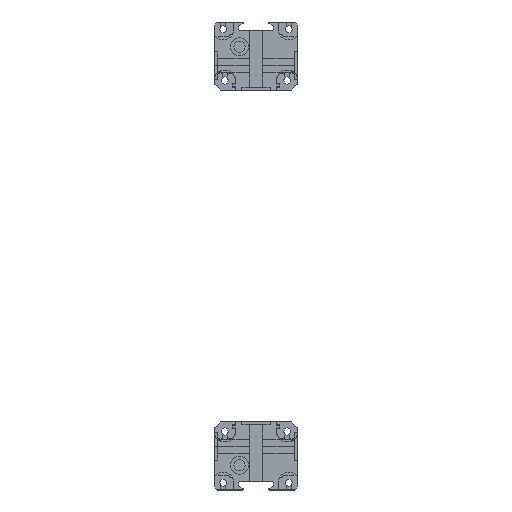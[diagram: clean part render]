
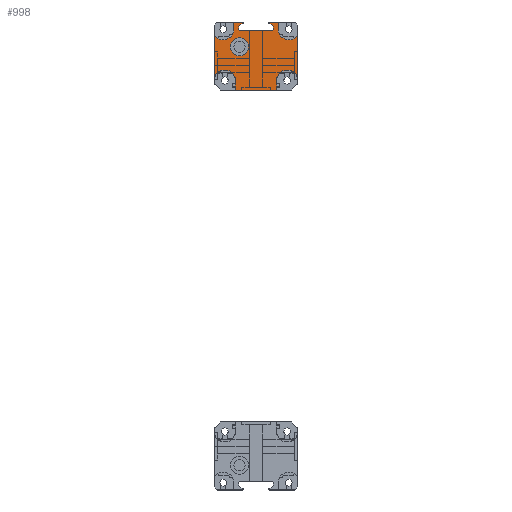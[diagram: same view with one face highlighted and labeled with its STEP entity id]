
A CAD part, front view. The second image highlights one B-rep face of the part: STEP entity #998.
In plain terms, the highlighted planar face has unit normal (0, -1, 0) as drawn and (0, 0, -1) by its records, which use the part's own axes.
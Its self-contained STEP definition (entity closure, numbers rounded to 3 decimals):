
#661=FACE_BOUND('',#1754,.T.);
#662=FACE_BOUND('',#1755,.T.);
#768=PLANE('',#7134);
#998=ADVANCED_FACE('',(#661,#662),#768,.T.);
#1754=EDGE_LOOP('',(#3763,#3764));
#1755=EDGE_LOOP('',(#3765,#3766,#3767,#3768,#3769,#3770,#3771,#3772,#3773,
#3774,#3775,#3776,#3777,#3778,#3779,#3780,#3781,#3782,#3783,#3784,#3785,
#3786,#3787,#3788,#3789));
#2194=LINE('',#10043,#2801);
#2195=LINE('',#10046,#2802);
#2196=LINE('',#10048,#2803);
#2197=LINE('',#10052,#2804);
#2198=LINE('',#10056,#2805);
#2199=LINE('',#10058,#2806);
#2200=LINE('',#10062,#2807);
#2201=LINE('',#10066,#2808);
#2202=LINE('',#10070,#2809);
#2203=LINE('',#10074,#2810);
#2204=LINE('',#10078,#2811);
#2205=LINE('',#10081,#2812);
#2206=LINE('',#10083,#2813);
#2207=LINE('',#10087,#2814);
#2801=VECTOR('',#8154,1.);
#2802=VECTOR('',#8155,1.);
#2803=VECTOR('',#8156,1.);
#2804=VECTOR('',#8159,1.);
#2805=VECTOR('',#8162,1.);
#2806=VECTOR('',#8163,1.);
#2807=VECTOR('',#8166,1.);
#2808=VECTOR('',#8169,1.);
#2809=VECTOR('',#8172,1.);
#2810=VECTOR('',#8175,1.);
#2811=VECTOR('',#8178,1.);
#2812=VECTOR('',#8181,1.);
#2813=VECTOR('',#8182,1.);
#2814=VECTOR('',#8185,1.);
#3763=ORIENTED_EDGE('',*,*,#5895,.T.);
#3764=ORIENTED_EDGE('',*,*,#5980,.T.);
#3765=ORIENTED_EDGE('',*,*,#5981,.T.);
#3766=ORIENTED_EDGE('',*,*,#5982,.F.);
#3767=ORIENTED_EDGE('',*,*,#5983,.F.);
#3768=ORIENTED_EDGE('',*,*,#5984,.T.);
#3769=ORIENTED_EDGE('',*,*,#5985,.F.);
#3770=ORIENTED_EDGE('',*,*,#5986,.T.);
#3771=ORIENTED_EDGE('',*,*,#5987,.T.);
#3772=ORIENTED_EDGE('',*,*,#5988,.F.);
#3773=ORIENTED_EDGE('',*,*,#5989,.F.);
#3774=ORIENTED_EDGE('',*,*,#5990,.F.);
#3775=ORIENTED_EDGE('',*,*,#5991,.F.);
#3776=ORIENTED_EDGE('',*,*,#5992,.F.);
#3777=ORIENTED_EDGE('',*,*,#5993,.F.);
#3778=ORIENTED_EDGE('',*,*,#5994,.F.);
#3779=ORIENTED_EDGE('',*,*,#5995,.F.);
#3780=ORIENTED_EDGE('',*,*,#5996,.F.);
#3781=ORIENTED_EDGE('',*,*,#5997,.F.);
#3782=ORIENTED_EDGE('',*,*,#5998,.F.);
#3783=ORIENTED_EDGE('',*,*,#5999,.F.);
#3784=ORIENTED_EDGE('',*,*,#5912,.F.);
#3785=ORIENTED_EDGE('',*,*,#6000,.F.);
#3786=ORIENTED_EDGE('',*,*,#6001,.F.);
#3787=ORIENTED_EDGE('',*,*,#6002,.T.);
#3788=ORIENTED_EDGE('',*,*,#6003,.F.);
#3789=ORIENTED_EDGE('',*,*,#6004,.T.);
#5214=VERTEX_POINT('',#9862);
#5215=VERTEX_POINT('',#9864);
#5231=VERTEX_POINT('',#9904);
#5232=VERTEX_POINT('',#9905);
#5281=VERTEX_POINT('',#10044);
#5282=VERTEX_POINT('',#10045);
#5283=VERTEX_POINT('',#10047);
#5284=VERTEX_POINT('',#10049);
#5285=VERTEX_POINT('',#10051);
#5286=VERTEX_POINT('',#10053);
#5287=VERTEX_POINT('',#10055);
#5288=VERTEX_POINT('',#10057);
#5289=VERTEX_POINT('',#10059);
#5290=VERTEX_POINT('',#10061);
#5291=VERTEX_POINT('',#10063);
#5292=VERTEX_POINT('',#10065);
#5293=VERTEX_POINT('',#10067);
#5294=VERTEX_POINT('',#10069);
#5295=VERTEX_POINT('',#10071);
#5296=VERTEX_POINT('',#10073);
#5297=VERTEX_POINT('',#10075);
#5298=VERTEX_POINT('',#10077);
#5299=VERTEX_POINT('',#10079);
#5300=VERTEX_POINT('',#10082);
#5301=VERTEX_POINT('',#10084);
#5302=VERTEX_POINT('',#10086);
#5303=VERTEX_POINT('',#10088);
#5895=EDGE_CURVE('',#5215,#5214,#6684,.T.);
#5912=EDGE_CURVE('',#5231,#5232,#6692,.T.);
#5980=EDGE_CURVE('',#5214,#5215,#6716,.T.);
#5981=EDGE_CURVE('',#5281,#5282,#2194,.T.);
#5982=EDGE_CURVE('',#5283,#5282,#2195,.T.);
#5983=EDGE_CURVE('',#5284,#5283,#2196,.T.);
#5984=EDGE_CURVE('',#5284,#5285,#6717,.T.);
#5985=EDGE_CURVE('',#5286,#5285,#2197,.T.);
#5986=EDGE_CURVE('',#5286,#5287,#6718,.T.);
#5987=EDGE_CURVE('',#5287,#5288,#2198,.T.);
#5988=EDGE_CURVE('',#5289,#5288,#2199,.T.);
#5989=EDGE_CURVE('',#5290,#5289,#6719,.T.);
#5990=EDGE_CURVE('',#5291,#5290,#2200,.T.);
#5991=EDGE_CURVE('',#5292,#5291,#6720,.T.);
#5992=EDGE_CURVE('',#5293,#5292,#2201,.T.);
#5993=EDGE_CURVE('',#5294,#5293,#6721,.T.);
#5994=EDGE_CURVE('',#5295,#5294,#2202,.T.);
#5995=EDGE_CURVE('',#5296,#5295,#6722,.T.);
#5996=EDGE_CURVE('',#5297,#5296,#2203,.T.);
#5997=EDGE_CURVE('',#5298,#5297,#6723,.T.);
#5998=EDGE_CURVE('',#5299,#5298,#2204,.T.);
#5999=EDGE_CURVE('',#5232,#5299,#6724,.T.);
#6000=EDGE_CURVE('',#5300,#5231,#2205,.T.);
#6001=EDGE_CURVE('',#5301,#5300,#2206,.T.);
#6002=EDGE_CURVE('',#5301,#5302,#6725,.T.);
#6003=EDGE_CURVE('',#5303,#5302,#2207,.T.);
#6004=EDGE_CURVE('',#5303,#5281,#6726,.T.);
#6684=CIRCLE('',#7066,2.75);
#6692=CIRCLE('',#7078,0.2);
#6716=CIRCLE('',#7123,2.75);
#6717=CIRCLE('',#7124,3.2);
#6718=CIRCLE('',#7125,3.2);
#6719=CIRCLE('',#7126,0.2);
#6720=CIRCLE('',#7127,0.5);
#6721=CIRCLE('',#7128,0.5);
#6722=CIRCLE('',#7129,0.5);
#6723=CIRCLE('',#7130,0.5);
#6724=CIRCLE('',#7131,0.2);
#6725=CIRCLE('',#7132,3.2);
#6726=CIRCLE('',#7133,3.2);
#7066=AXIS2_PLACEMENT_3D('',#9863,#7986,#7987);
#7078=AXIS2_PLACEMENT_3D('',#9903,#8018,#8019);
#7123=AXIS2_PLACEMENT_3D('',#10042,#8152,#8153);
#7124=AXIS2_PLACEMENT_3D('',#10050,#8157,#8158);
#7125=AXIS2_PLACEMENT_3D('',#10054,#8160,#8161);
#7126=AXIS2_PLACEMENT_3D('',#10060,#8164,#8165);
#7127=AXIS2_PLACEMENT_3D('',#10064,#8167,#8168);
#7128=AXIS2_PLACEMENT_3D('',#10068,#8170,#8171);
#7129=AXIS2_PLACEMENT_3D('',#10072,#8173,#8174);
#7130=AXIS2_PLACEMENT_3D('',#10076,#8176,#8177);
#7131=AXIS2_PLACEMENT_3D('',#10080,#8179,#8180);
#7132=AXIS2_PLACEMENT_3D('',#10085,#8183,#8184);
#7133=AXIS2_PLACEMENT_3D('',#10089,#8186,#8187);
#7134=AXIS2_PLACEMENT_3D('',#10090,#8188,#8189);
#7986=DIRECTION('',(0.,0.,1.));
#7987=DIRECTION('',(1.,0.,0.));
#8018=DIRECTION('',(0.,0.,1.));
#8019=DIRECTION('',(1.,0.,0.));
#8152=DIRECTION('',(0.,0.,1.));
#8153=DIRECTION('',(1.,0.,0.));
#8154=DIRECTION('',(0.,-1.,0.));
#8155=DIRECTION('',(1.,0.,0.));
#8156=DIRECTION('',(0.,-1.,0.));
#8157=DIRECTION('',(0.,0.,1.));
#8158=DIRECTION('',(1.,0.,0.));
#8159=DIRECTION('',(0.,-1.,0.));
#8160=DIRECTION('',(0.,0.,1.));
#8161=DIRECTION('',(1.,0.,0.));
#8162=DIRECTION('',(0.,1.,0.));
#8163=DIRECTION('',(-1.,0.,0.));
#8164=DIRECTION('',(0.,0.,1.));
#8165=DIRECTION('',(1.,0.,0.));
#8166=DIRECTION('',(0.883,0.469,0.));
#8167=DIRECTION('',(0.,0.,-1.));
#8168=DIRECTION('',(1.,0.,0.));
#8169=DIRECTION('',(0.,1.,0.));
#8170=DIRECTION('',(0.,0.,-1.));
#8171=DIRECTION('',(1.,0.,0.));
#8172=DIRECTION('',(-1.,0.,0.));
#8173=DIRECTION('',(0.,0.,-1.));
#8174=DIRECTION('',(1.,0.,0.));
#8175=DIRECTION('',(0.,-1.,0.));
#8176=DIRECTION('',(0.,0.,-1.));
#8177=DIRECTION('',(1.,0.,0.));
#8178=DIRECTION('',(0.883,-0.469,0.));
#8179=DIRECTION('',(0.,0.,1.));
#8180=DIRECTION('',(1.,0.,0.));
#8181=DIRECTION('',(-1.,0.,0.));
#8182=DIRECTION('',(0.,1.,0.));
#8183=DIRECTION('',(0.,0.,1.));
#8184=DIRECTION('',(1.,0.,0.));
#8185=DIRECTION('',(0.,1.,0.));
#8186=DIRECTION('',(0.,0.,1.));
#8187=DIRECTION('',(1.,0.,0.));
#8188=DIRECTION('',(0.,0.,-1.));
#8189=DIRECTION('',(-1.,0.,0.));
#9862=CARTESIAN_POINT('',(7.75,2.7,-11.));
#9863=CARTESIAN_POINT('',(5.,2.7,-11.));
#9864=CARTESIAN_POINT('',(2.25,2.7,-11.));
#9903=CARTESIAN_POINT('',(3.933,10.,-11.));
#9904=CARTESIAN_POINT('',(3.931,10.2,-11.));
#9905=CARTESIAN_POINT('',(3.733,10.,-11.));
#10042=CARTESIAN_POINT('',(5.,2.7,-11.));
#10043=CARTESIAN_POINT('',(6.2,0.,-11.));
#10044=CARTESIAN_POINT('',(6.2,-7.5,-11.));
#10045=CARTESIAN_POINT('',(6.2,-10.5,-11.));
#10046=CARTESIAN_POINT('',(-10.293,-10.5,-11.));
#10047=CARTESIAN_POINT('',(-6.2,-10.5,-11.));
#10048=CARTESIAN_POINT('',(-6.2,0.,-11.));
#10049=CARTESIAN_POINT('',(-6.2,-7.5,-11.));
#10050=CARTESIAN_POINT('',(-9.4,-7.5,-11.));
#10051=CARTESIAN_POINT('',(-12.5,-6.706,-11.));
#10052=CARTESIAN_POINT('',(-12.5,9.2,-11.));
#10053=CARTESIAN_POINT('',(-12.5,6.135,-11.));
#10054=CARTESIAN_POINT('',(-9.9,8.,-11.));
#10055=CARTESIAN_POINT('',(-6.7,8.,-11.));
#10056=CARTESIAN_POINT('',(-6.7,0.,-11.));
#10057=CARTESIAN_POINT('',(-6.7,10.2,-11.));
#10058=CARTESIAN_POINT('',(-3.933,10.2,-11.));
#10059=CARTESIAN_POINT('',(-3.933,10.2,-11.));
#10060=CARTESIAN_POINT('',(-3.933,10.,-11.));
#10061=CARTESIAN_POINT('',(-3.838,9.824,-11.));
#10062=CARTESIAN_POINT('',(-4.985,9.215,-11.));
#10063=CARTESIAN_POINT('',(-4.985,9.215,-11.));
#10064=CARTESIAN_POINT('',(-4.75,8.773,-11.));
#10065=CARTESIAN_POINT('',(-5.25,8.773,-11.));
#10066=CARTESIAN_POINT('',(-5.25,8.2,-11.));
#10067=CARTESIAN_POINT('',(-5.25,8.2,-11.));
#10068=CARTESIAN_POINT('',(-4.75,8.2,-11.));
#10069=CARTESIAN_POINT('',(-4.75,7.7,-11.));
#10070=CARTESIAN_POINT('',(4.75,7.7,-11.));
#10071=CARTESIAN_POINT('',(4.75,7.7,-11.));
#10072=CARTESIAN_POINT('',(4.75,8.2,-11.));
#10073=CARTESIAN_POINT('',(5.25,8.2,-11.));
#10074=CARTESIAN_POINT('',(5.25,8.773,-11.));
#10075=CARTESIAN_POINT('',(5.25,8.773,-11.));
#10076=CARTESIAN_POINT('',(4.75,8.773,-11.));
#10077=CARTESIAN_POINT('',(4.985,9.215,-11.));
#10078=CARTESIAN_POINT('',(3.84,9.823,-11.));
#10079=CARTESIAN_POINT('',(3.84,9.823,-11.));
#10080=CARTESIAN_POINT('',(3.933,10.,-11.));
#10081=CARTESIAN_POINT('',(11.5,10.2,-11.));
#10082=CARTESIAN_POINT('',(6.7,10.2,-11.));
#10083=CARTESIAN_POINT('',(6.7,0.,-11.));
#10084=CARTESIAN_POINT('',(6.7,8.,-11.));
#10085=CARTESIAN_POINT('',(9.9,8.,-11.));
#10086=CARTESIAN_POINT('',(12.5,6.135,-11.));
#10087=CARTESIAN_POINT('',(12.5,-8.293,-11.));
#10088=CARTESIAN_POINT('',(12.5,-6.706,-11.));
#10089=CARTESIAN_POINT('',(9.4,-7.5,-11.));
#10090=CARTESIAN_POINT('',(-10.293,-10.,-11.));
